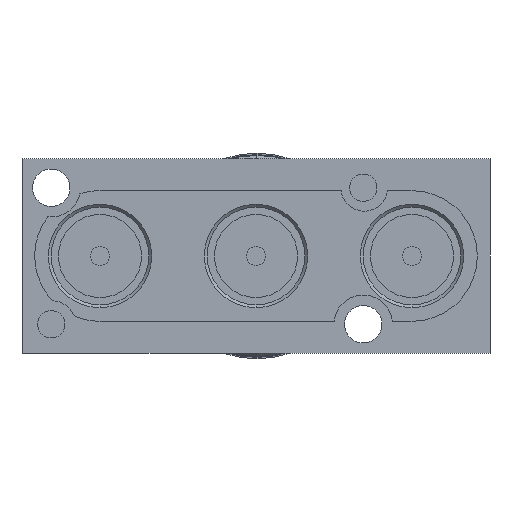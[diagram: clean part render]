
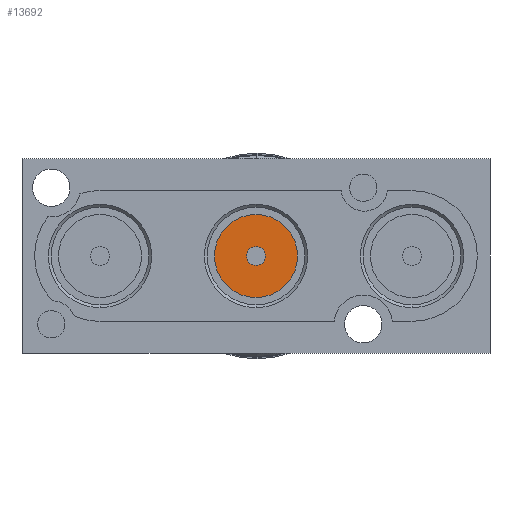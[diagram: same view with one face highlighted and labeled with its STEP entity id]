
A CAD part, front view. The second image highlights one B-rep face of the part: STEP entity #13692.
In plain terms, the highlighted planar face has unit normal (0, -1, 0).
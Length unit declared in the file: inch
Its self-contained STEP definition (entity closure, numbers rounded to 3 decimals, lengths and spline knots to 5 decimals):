
#89 = DIRECTION ( 'NONE',  ( 0., 0., -1. ) ) ;
#710 = CARTESIAN_POINT ( 'NONE',  ( 0.1225, -0.3665, -0.1065 ) ) ;
#779 = AXIS2_PLACEMENT_3D ( 'NONE', #20207, #13236, #11094 ) ;
#1353 = EDGE_LOOP ( 'NONE', ( #17388, #10961 ) ) ;
#5125 = CARTESIAN_POINT ( 'NONE',  ( 0.1225, -0.3665, -0.024 ) ) ;
#5507 = AXIS2_PLACEMENT_3D ( 'NONE', #10418, #15943, #14368 ) ;
#5992 = AXIS2_PLACEMENT_3D ( 'NONE', #20663, #6505, #12005 ) ;
#6091 = FACE_BOUND ( 'NONE', #16321, .T. ) ;
#6505 = DIRECTION ( 'NONE',  ( 0., -1., 0. ) ) ;
#6714 = EDGE_CURVE ( 'NONE', #21293, #6965, #12497, .T. ) ;
#6965 = VERTEX_POINT ( 'NONE', #17047 ) ;
#7127 = AXIS2_PLACEMENT_3D ( 'NONE', #23689, #18208, #89 ) ;
#8801 = ORIENTED_EDGE ( 'NONE', *, *, #17911, .F. ) ;
#9342 = CIRCLE ( 'NONE', #5507, 0.1065 ) ;
#9406 = EDGE_CURVE ( 'NONE', #20334, #18640, #17350, .T. ) ;
#9600 = CARTESIAN_POINT ( 'NONE',  ( 0.1225, -0.3665, 0.024 ) ) ;
#9928 = CARTESIAN_POINT ( 'NONE',  ( 0.1225, -0.3665, 0. ) ) ;
#10418 = CARTESIAN_POINT ( 'NONE',  ( 0.1225, -0.3665, 0. ) ) ;
#10961 = ORIENTED_EDGE ( 'NONE', *, *, #22280, .T. ) ;
#11094 = DIRECTION ( 'NONE',  ( 0., 0., -1. ) ) ;
#12005 = DIRECTION ( 'NONE',  ( 0., 0., -1. ) ) ;
#12497 = CIRCLE ( 'NONE', #5992, 0.1065 ) ;
#13236 = DIRECTION ( 'NONE',  ( 0., -1., 0. ) ) ;
#13642 = PLANE ( 'NONE',  #19001 ) ;
#13692 = ADVANCED_FACE ( 'NONE', ( #6091, #17372 ), #13642, .F. ) ;
#13817 = ORIENTED_EDGE ( 'NONE', *, *, #9406, .F. ) ;
#14368 = DIRECTION ( 'NONE',  ( 0., 0., -1. ) ) ;
#15943 = DIRECTION ( 'NONE',  ( 0., -1., 0. ) ) ;
#16321 = EDGE_LOOP ( 'NONE', ( #13817, #8801 ) ) ;
#17047 = CARTESIAN_POINT ( 'NONE',  ( 0.1225, -0.3665, 0.1065 ) ) ;
#17350 = CIRCLE ( 'NONE', #779, 0.024 ) ;
#17372 = FACE_OUTER_BOUND ( 'NONE', #1353, .T. ) ;
#17388 = ORIENTED_EDGE ( 'NONE', *, *, #6714, .T. ) ;
#17911 = EDGE_CURVE ( 'NONE', #18640, #20334, #23199, .T. ) ;
#18208 = DIRECTION ( 'NONE',  ( 0., -1., 0. ) ) ;
#18640 = VERTEX_POINT ( 'NONE', #9600 ) ;
#18816 = DIRECTION ( 'NONE',  ( 0., 0., 1. ) ) ;
#19001 = AXIS2_PLACEMENT_3D ( 'NONE', #9928, #19051, #18816 ) ;
#19051 = DIRECTION ( 'NONE',  ( 0., 1., 0. ) ) ;
#20207 = CARTESIAN_POINT ( 'NONE',  ( 0.1225, -0.3665, 0. ) ) ;
#20334 = VERTEX_POINT ( 'NONE', #5125 ) ;
#20663 = CARTESIAN_POINT ( 'NONE',  ( 0.1225, -0.3665, 0. ) ) ;
#21293 = VERTEX_POINT ( 'NONE', #710 ) ;
#22280 = EDGE_CURVE ( 'NONE', #6965, #21293, #9342, .T. ) ;
#23199 = CIRCLE ( 'NONE', #7127, 0.024 ) ;
#23689 = CARTESIAN_POINT ( 'NONE',  ( 0.1225, -0.3665, 0. ) ) ;
